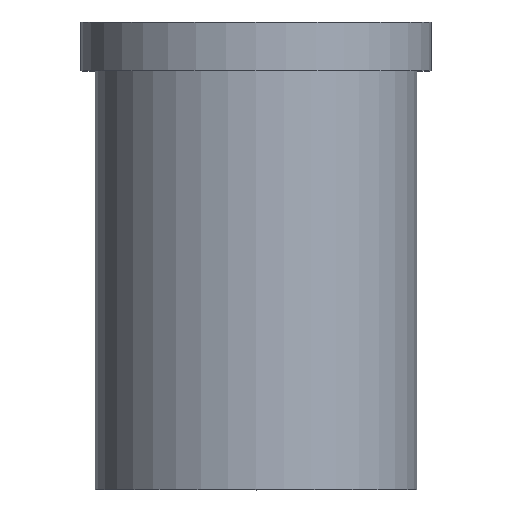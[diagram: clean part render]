
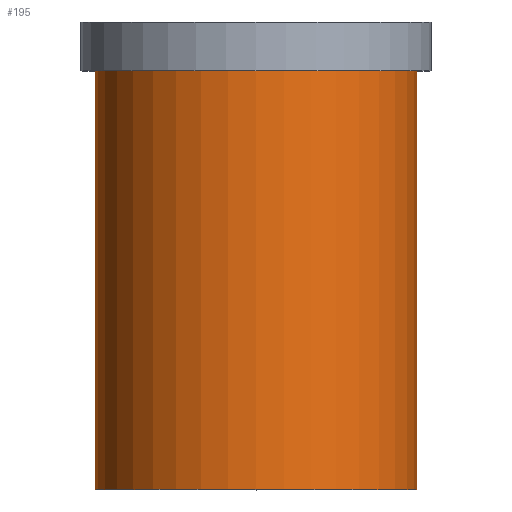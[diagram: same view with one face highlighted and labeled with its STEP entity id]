
A CAD part, top view. The second image highlights one B-rep face of the part: STEP entity #195.
In plain terms, the highlighted cylindrical face has radius 33 mm (diameter 66 mm), a full revolution.
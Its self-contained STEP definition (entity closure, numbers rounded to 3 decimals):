
#32=ORIENTED_EDGE('',*,*,#50,.T.);
#33=ORIENTED_EDGE('',*,*,#49,.F.);
#49=EDGE_CURVE('',#59,#59,#69,.T.);
#50=EDGE_CURVE('',#60,#60,#70,.T.);
#59=VERTEX_POINT('',#280);
#60=VERTEX_POINT('',#283);
#69=CIRCLE('',#213,33.);
#70=CIRCLE('',#215,33.);
#82=EDGE_LOOP('',(#32));
#83=EDGE_LOOP('',(#33));
#102=FACE_BOUND('',#82,.T.);
#103=FACE_BOUND('',#83,.T.);
#117=CYLINDRICAL_SURFACE('',#214,33.);
#195=ADVANCED_FACE('',(#102,#103),#117,.T.);
#213=AXIS2_PLACEMENT_3D('',#279,#241,#242);
#214=AXIS2_PLACEMENT_3D('',#281,#243,#244);
#215=AXIS2_PLACEMENT_3D('',#282,#245,#246);
#241=DIRECTION('',(0.,-1.,0.));
#242=DIRECTION('',(0.,0.,-1.));
#243=DIRECTION('',(0.,-1.,0.));
#244=DIRECTION('',(0.,0.,-1.));
#245=DIRECTION('',(0.,-1.,0.));
#246=DIRECTION('',(0.,0.,-1.));
#279=CARTESIAN_POINT('',(0.,0.,0.));
#280=CARTESIAN_POINT('',(0.,0.,-33.));
#281=CARTESIAN_POINT('',(0.,0.,0.));
#282=CARTESIAN_POINT('',(0.,86.,0.));
#283=CARTESIAN_POINT('',(0.,86.,-33.));
